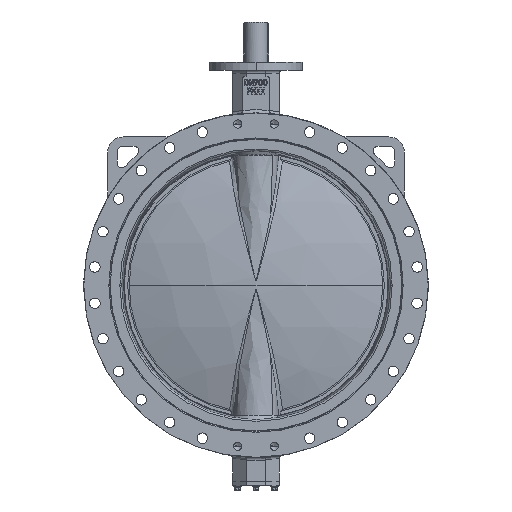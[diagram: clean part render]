
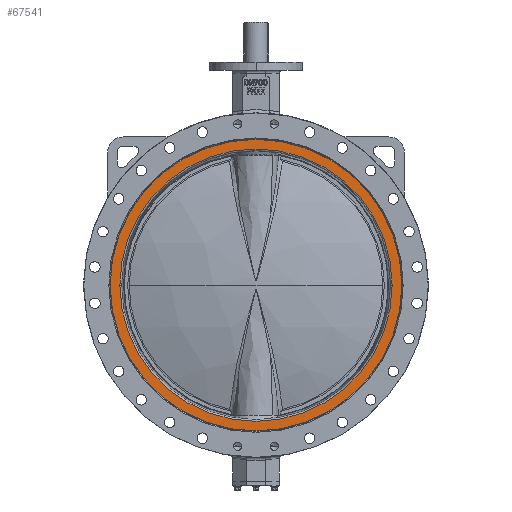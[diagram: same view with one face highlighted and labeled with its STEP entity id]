
A CAD part, front view. The second image highlights one B-rep face of the part: STEP entity #67541.
In plain terms, the highlighted planar face has unit normal (0, -1, 0).
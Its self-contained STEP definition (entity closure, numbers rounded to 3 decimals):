
#60496 = EDGE_CURVE('',#60497,#60499,#60501,.T.);
#60497 = VERTEX_POINT('',#60498);
#60498 = CARTESIAN_POINT('',(440.792,-525.699,
    623.199));
#60499 = VERTEX_POINT('',#60500);
#60500 = CARTESIAN_POINT('',(-440.792,-525.699,
    623.199));
#60501 = SURFACE_CURVE('',#60502,(#60507,#60519),.PCURVE_S1.);
#60502 = CIRCLE('',#60503,440.792);
#60503 = AXIS2_PLACEMENT_3D('',#60504,#60505,#60506);
#60504 = CARTESIAN_POINT('',(0.,-525.699,
    623.199));
#60505 = DIRECTION('',(0.,-1.,0.));
#60506 = DIRECTION('',(1.,0.,0.));
#60507 = PCURVE('',#60508,#60513);
#60508 = TOROIDAL_SURFACE('',#60509,440.792,5.);
#60509 = AXIS2_PLACEMENT_3D('',#60510,#60511,#60512);
#60510 = CARTESIAN_POINT('',(0.,-520.699,
    623.199));
#60511 = DIRECTION('',(0.,-1.,0.));
#60512 = DIRECTION('',(1.,0.,0.));
#60513 = DEFINITIONAL_REPRESENTATION('',(#60514),#60518);
#60514 = LINE('',#60515,#60516);
#60515 = CARTESIAN_POINT('',(0.,1.571));
#60516 = VECTOR('',#60517,1.);
#60517 = DIRECTION('',(1.,0.));
#60518 = ( GEOMETRIC_REPRESENTATION_CONTEXT(2) 
PARAMETRIC_REPRESENTATION_CONTEXT() REPRESENTATION_CONTEXT('2D SPACE',''
  ) );
#60519 = PCURVE('',#60520,#60525);
#60520 = PLANE('',#60521);
#60521 = AXIS2_PLACEMENT_3D('',#60522,#60523,#60524);
#60522 = CARTESIAN_POINT('',(0.,-525.699,
    1095.299));
#60523 = DIRECTION('',(0.,1.,0.));
#60524 = DIRECTION('',(-1.,0.,0.));
#60525 = DEFINITIONAL_REPRESENTATION('',(#60526),#60534);
#60526 = ( BOUNDED_CURVE() B_SPLINE_CURVE(2,(#60527,#60528,#60529,#60530
    ,#60531,#60532,#60533),.UNSPECIFIED.,.T.,.F.) 
B_SPLINE_CURVE_WITH_KNOTS((1,2,2,2,2,1),(-2.094,0.,
    2.094,4.189,6.283,8.378),
.UNSPECIFIED.) CURVE() GEOMETRIC_REPRESENTATION_ITEM() 
RATIONAL_B_SPLINE_CURVE((1.,0.5,1.,0.5,1.,0.5,1.)) REPRESENTATION_ITEM(
  '') );
#60527 = CARTESIAN_POINT('',(-440.792,-472.1));
#60528 = CARTESIAN_POINT('',(-440.792,291.374));
#60529 = CARTESIAN_POINT('',(220.396,-90.363));
#60530 = CARTESIAN_POINT('',(881.583,-472.1));
#60531 = CARTESIAN_POINT('',(220.396,-853.837));
#60532 = CARTESIAN_POINT('',(-440.792,-1235.574));
#60533 = CARTESIAN_POINT('',(-440.792,-472.1));
#60534 = ( GEOMETRIC_REPRESENTATION_CONTEXT(2) 
PARAMETRIC_REPRESENTATION_CONTEXT() REPRESENTATION_CONTEXT('2D SPACE',''
  ) );
#60553 = TOROIDAL_SURFACE('',#60554,440.792,5.);
#60554 = AXIS2_PLACEMENT_3D('',#60555,#60556,#60557);
#60555 = CARTESIAN_POINT('',(0.,-520.699,
    623.199));
#60556 = DIRECTION('',(0.,-1.,0.));
#60557 = DIRECTION('',(1.,0.,0.));
#63609 = CYLINDRICAL_SURFACE('',#63610,472.1);
#63610 = AXIS2_PLACEMENT_3D('',#63611,#63612,#63613);
#63611 = CARTESIAN_POINT('',(0.,-616.847,
    623.199));
#63612 = DIRECTION('',(0.,-1.,0.));
#63613 = DIRECTION('',(1.,0.,0.));
#63629 = VERTEX_POINT('',#63630);
#63630 = CARTESIAN_POINT('',(-472.1,-525.699,623.199));
#63644 = CYLINDRICAL_SURFACE('',#63645,472.1);
#63645 = AXIS2_PLACEMENT_3D('',#63646,#63647,#63648);
#63646 = CARTESIAN_POINT('',(0.,-616.847,
    623.199));
#63647 = DIRECTION('',(0.,-1.,0.));
#63648 = DIRECTION('',(1.,0.,0.));
#63656 = EDGE_CURVE('',#63657,#63629,#63659,.T.);
#63657 = VERTEX_POINT('',#63658);
#63658 = CARTESIAN_POINT('',(472.1,-525.699,623.199));
#63659 = SURFACE_CURVE('',#63660,(#63665,#63672),.PCURVE_S1.);
#63660 = CIRCLE('',#63661,472.1);
#63661 = AXIS2_PLACEMENT_3D('',#63662,#63663,#63664);
#63662 = CARTESIAN_POINT('',(0.,-525.699,
    623.199));
#63663 = DIRECTION('',(0.,-1.,0.));
#63664 = DIRECTION('',(1.,0.,0.));
#63665 = PCURVE('',#63609,#63666);
#63666 = DEFINITIONAL_REPRESENTATION('',(#63667),#63671);
#63667 = LINE('',#63668,#63669);
#63668 = CARTESIAN_POINT('',(0.,-91.148));
#63669 = VECTOR('',#63670,1.);
#63670 = DIRECTION('',(1.,0.));
#63671 = ( GEOMETRIC_REPRESENTATION_CONTEXT(2) 
PARAMETRIC_REPRESENTATION_CONTEXT() REPRESENTATION_CONTEXT('2D SPACE',''
  ) );
#63672 = PCURVE('',#60520,#63673);
#63673 = DEFINITIONAL_REPRESENTATION('',(#63674),#63682);
#63674 = ( BOUNDED_CURVE() B_SPLINE_CURVE(2,(#63675,#63676,#63677,#63678
    ,#63679,#63680,#63681),.UNSPECIFIED.,.T.,.F.) 
B_SPLINE_CURVE_WITH_KNOTS((1,2,2,2,2,1),(-2.094,0.,
    2.094,4.189,6.283,8.378),
.UNSPECIFIED.) CURVE() GEOMETRIC_REPRESENTATION_ITEM() 
RATIONAL_B_SPLINE_CURVE((1.,0.5,1.,0.5,1.,0.5,1.)) REPRESENTATION_ITEM(
  '') );
#63675 = CARTESIAN_POINT('',(-472.1,-472.1));
#63676 = CARTESIAN_POINT('',(-472.1,345.601));
#63677 = CARTESIAN_POINT('',(236.05,-63.249));
#63678 = CARTESIAN_POINT('',(944.2,-472.1));
#63679 = CARTESIAN_POINT('',(236.05,-880.951));
#63680 = CARTESIAN_POINT('',(-472.1,-1289.801));
#63681 = CARTESIAN_POINT('',(-472.1,-472.1));
#63682 = ( GEOMETRIC_REPRESENTATION_CONTEXT(2) 
PARAMETRIC_REPRESENTATION_CONTEXT() REPRESENTATION_CONTEXT('2D SPACE',''
  ) );
#65430 = EDGE_CURVE('',#63629,#63657,#65431,.T.);
#65431 = SURFACE_CURVE('',#65432,(#65437,#65444),.PCURVE_S1.);
#65432 = CIRCLE('',#65433,472.1);
#65433 = AXIS2_PLACEMENT_3D('',#65434,#65435,#65436);
#65434 = CARTESIAN_POINT('',(0.,-525.699,
    623.199));
#65435 = DIRECTION('',(0.,-1.,0.));
#65436 = DIRECTION('',(1.,0.,0.));
#65437 = PCURVE('',#63644,#65438);
#65438 = DEFINITIONAL_REPRESENTATION('',(#65439),#65443);
#65439 = LINE('',#65440,#65441);
#65440 = CARTESIAN_POINT('',(0.,-91.148));
#65441 = VECTOR('',#65442,1.);
#65442 = DIRECTION('',(1.,0.));
#65443 = ( GEOMETRIC_REPRESENTATION_CONTEXT(2) 
PARAMETRIC_REPRESENTATION_CONTEXT() REPRESENTATION_CONTEXT('2D SPACE',''
  ) );
#65444 = PCURVE('',#60520,#65445);
#65445 = DEFINITIONAL_REPRESENTATION('',(#65446),#65454);
#65446 = ( BOUNDED_CURVE() B_SPLINE_CURVE(2,(#65447,#65448,#65449,#65450
    ,#65451,#65452,#65453),.UNSPECIFIED.,.T.,.F.) 
B_SPLINE_CURVE_WITH_KNOTS((1,2,2,2,2,1),(-2.094,0.,
    2.094,4.189,6.283,8.378),
.UNSPECIFIED.) CURVE() GEOMETRIC_REPRESENTATION_ITEM() 
RATIONAL_B_SPLINE_CURVE((1.,0.5,1.,0.5,1.,0.5,1.)) REPRESENTATION_ITEM(
  '') );
#65447 = CARTESIAN_POINT('',(-472.1,-472.1));
#65448 = CARTESIAN_POINT('',(-472.1,345.601));
#65449 = CARTESIAN_POINT('',(236.05,-63.249));
#65450 = CARTESIAN_POINT('',(944.2,-472.1));
#65451 = CARTESIAN_POINT('',(236.05,-880.951));
#65452 = CARTESIAN_POINT('',(-472.1,-1289.801));
#65453 = CARTESIAN_POINT('',(-472.1,-472.1));
#65454 = ( GEOMETRIC_REPRESENTATION_CONTEXT(2) 
PARAMETRIC_REPRESENTATION_CONTEXT() REPRESENTATION_CONTEXT('2D SPACE',''
  ) );
#67514 = EDGE_CURVE('',#60499,#60497,#67515,.T.);
#67515 = SURFACE_CURVE('',#67516,(#67521,#67528),.PCURVE_S1.);
#67516 = CIRCLE('',#67517,440.792);
#67517 = AXIS2_PLACEMENT_3D('',#67518,#67519,#67520);
#67518 = CARTESIAN_POINT('',(0.,-525.699,
    623.199));
#67519 = DIRECTION('',(0.,-1.,0.));
#67520 = DIRECTION('',(1.,0.,0.));
#67521 = PCURVE('',#60553,#67522);
#67522 = DEFINITIONAL_REPRESENTATION('',(#67523),#67527);
#67523 = LINE('',#67524,#67525);
#67524 = CARTESIAN_POINT('',(0.,1.571));
#67525 = VECTOR('',#67526,1.);
#67526 = DIRECTION('',(1.,0.));
#67527 = ( GEOMETRIC_REPRESENTATION_CONTEXT(2) 
PARAMETRIC_REPRESENTATION_CONTEXT() REPRESENTATION_CONTEXT('2D SPACE',''
  ) );
#67528 = PCURVE('',#60520,#67529);
#67529 = DEFINITIONAL_REPRESENTATION('',(#67530),#67538);
#67530 = ( BOUNDED_CURVE() B_SPLINE_CURVE(2,(#67531,#67532,#67533,#67534
    ,#67535,#67536,#67537),.UNSPECIFIED.,.T.,.F.) 
B_SPLINE_CURVE_WITH_KNOTS((1,2,2,2,2,1),(-2.094,0.,
    2.094,4.189,6.283,8.378),
.UNSPECIFIED.) CURVE() GEOMETRIC_REPRESENTATION_ITEM() 
RATIONAL_B_SPLINE_CURVE((1.,0.5,1.,0.5,1.,0.5,1.)) REPRESENTATION_ITEM(
  '') );
#67531 = CARTESIAN_POINT('',(-440.792,-472.1));
#67532 = CARTESIAN_POINT('',(-440.792,291.374));
#67533 = CARTESIAN_POINT('',(220.396,-90.363));
#67534 = CARTESIAN_POINT('',(881.583,-472.1));
#67535 = CARTESIAN_POINT('',(220.396,-853.837));
#67536 = CARTESIAN_POINT('',(-440.792,-1235.574));
#67537 = CARTESIAN_POINT('',(-440.792,-472.1));
#67538 = ( GEOMETRIC_REPRESENTATION_CONTEXT(2) 
PARAMETRIC_REPRESENTATION_CONTEXT() REPRESENTATION_CONTEXT('2D SPACE',''
  ) );
#67541 = ADVANCED_FACE('',(#67542,#67546),#60520,.F.);
#67542 = FACE_BOUND('',#67543,.T.);
#67543 = EDGE_LOOP('',(#67544,#67545));
#67544 = ORIENTED_EDGE('',*,*,#60496,.F.);
#67545 = ORIENTED_EDGE('',*,*,#67514,.F.);
#67546 = FACE_BOUND('',#67547,.T.);
#67547 = EDGE_LOOP('',(#67548,#67549));
#67548 = ORIENTED_EDGE('',*,*,#63656,.T.);
#67549 = ORIENTED_EDGE('',*,*,#65430,.T.);
